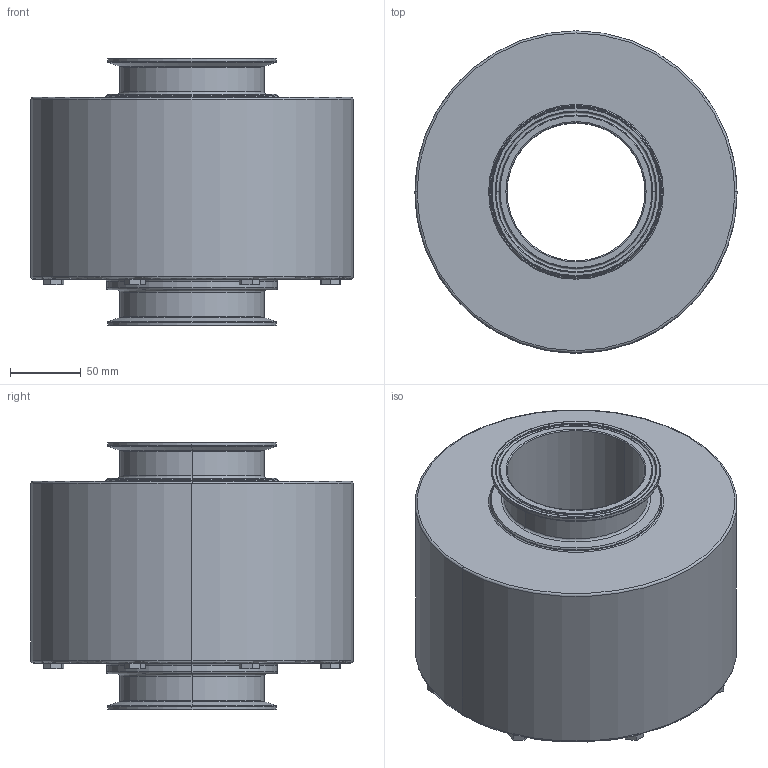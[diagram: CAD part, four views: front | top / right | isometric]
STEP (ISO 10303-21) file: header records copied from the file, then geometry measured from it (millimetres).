
FILE_DESCRIPTION (( 'STEP AP214' ), '1' );
FILE_NAME ('SCS(M)-613010.STEP', '2013-01-28T16:06:22', ( '' ), ( '' ), 'SwSTEP 2.0', 'SolidWorks 2011', '' );
FILE_SCHEMA (( 'AUTOMOTIVE_DESIGN' ));
Length unit declared in the file: inch
Products named in the file (1): SCS(M)-613010
Bounding box: 227.03 x 227.03 x 188.72 mm (x, y, z)
Volume: 4323933.8 mm3; surface area: 250943.5 mm2
Topology: 1 solids, 9 shells, 193 faces, 438 edges, 252 vertices
Faces by surface type: plane 81, torus 40, cone 36, cylinder 36
Entity records: 6298 total; most frequent: CARTESIAN_POINT 992, DIRECTION 984, ORIENTED_EDGE 836, EDGE_CURVE 418, AXIS2_PLACEMENT_3D 376, VERTEX_POINT 252, VECTOR 232, LINE 232
